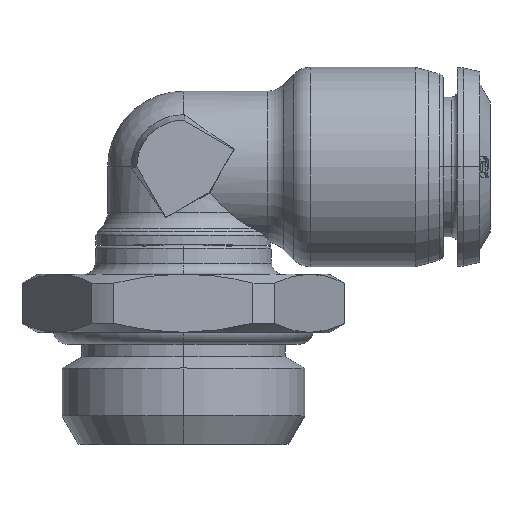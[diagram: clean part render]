
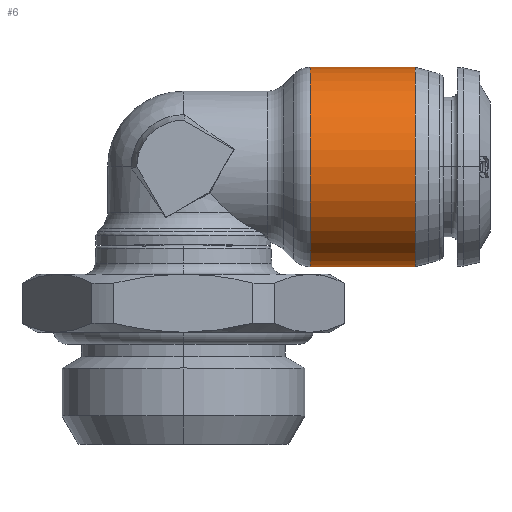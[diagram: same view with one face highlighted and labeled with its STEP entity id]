
A CAD part, top view. The second image highlights one B-rep face of the part: STEP entity #6.
In plain terms, the highlighted cylindrical face has radius 8.55 mm (diameter 17.1 mm), a partial arc.
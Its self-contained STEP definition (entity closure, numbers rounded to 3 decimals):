
#6 = ADVANCED_FACE ( 'NONE', ( #11668 ), #11676, .T. ) ;
#510 = AXIS2_PLACEMENT_3D ( 'NONE', #2738, #2737, #2729 ) ;
#744 = EDGE_CURVE ( 'NONE', #10720, #10719, #917, .T. ) ;
#770 = EDGE_CURVE ( 'NONE', #10699, #10702, #938, .T. ) ;
#771 = EDGE_CURVE ( 'NONE', #10702, #10719, #936, .T. ) ;
#772 = EDGE_CURVE ( 'NONE', #10699, #10720, #940, .T. ) ;
#917 = CIRCLE ( 'NONE', #7908, 8.55 ) ;
#936 = LINE ( 'NONE', #10300, #941 ) ;
#938 = CIRCLE ( 'NONE', #7920, 8.55 ) ;
#940 = LINE ( 'NONE', #10304, #943 ) ;
#941 = VECTOR ( 'NONE', #10295, 1000. ) ;
#943 = VECTOR ( 'NONE', #10306, 1000. ) ;
#1326 = CARTESIAN_POINT ( 'NONE',  ( 10.878, 8.55, 0. ) ) ;
#1329 = CARTESIAN_POINT ( 'NONE',  ( 10.878, -8.55, 0. ) ) ;
#1346 = CARTESIAN_POINT ( 'NONE',  ( 19.88, -8.55, 0. ) ) ;
#1347 = CARTESIAN_POINT ( 'NONE',  ( 19.88, 8.55, 0. ) ) ;
#2729 = DIRECTION ( 'NONE',  ( 0., 1., 0. ) ) ;
#2737 = DIRECTION ( 'NONE',  ( 1., 0., 0. ) ) ;
#2738 = CARTESIAN_POINT ( 'NONE',  ( 21., 0., 0. ) ) ;
#4669 = EDGE_LOOP ( 'NONE', ( #9084, #9085, #9086, #9087 ) ) ;
#7908 = AXIS2_PLACEMENT_3D ( 'NONE', #10207, #10208, #10209 ) ;
#7920 = AXIS2_PLACEMENT_3D ( 'NONE', #10301, #10302, #10303 ) ;
#9084 = ORIENTED_EDGE ( 'NONE', *, *, #770, .T. ) ;
#9085 = ORIENTED_EDGE ( 'NONE', *, *, #771, .T. ) ;
#9086 = ORIENTED_EDGE ( 'NONE', *, *, #744, .F. ) ;
#9087 = ORIENTED_EDGE ( 'NONE', *, *, #772, .F. ) ;
#10207 = CARTESIAN_POINT ( 'NONE',  ( 19.88, 0., 0. ) ) ;
#10208 = DIRECTION ( 'NONE',  ( 1., 0., 0. ) ) ;
#10209 = DIRECTION ( 'NONE',  ( 0., 1., 0. ) ) ;
#10295 = DIRECTION ( 'NONE',  ( 1., 0., 0. ) ) ;
#10300 = CARTESIAN_POINT ( 'NONE',  ( 21., -8.55, 0. ) ) ;
#10301 = CARTESIAN_POINT ( 'NONE',  ( 10.878, 0., 0. ) ) ;
#10302 = DIRECTION ( 'NONE',  ( 1., 0., 0. ) ) ;
#10303 = DIRECTION ( 'NONE',  ( 0., 1., 0. ) ) ;
#10304 = CARTESIAN_POINT ( 'NONE',  ( 21., 8.55, 0. ) ) ;
#10306 = DIRECTION ( 'NONE',  ( 1., 0., 0. ) ) ;
#10699 = VERTEX_POINT ( 'NONE', #1326 ) ;
#10702 = VERTEX_POINT ( 'NONE', #1329 ) ;
#10719 = VERTEX_POINT ( 'NONE', #1346 ) ;
#10720 = VERTEX_POINT ( 'NONE', #1347 ) ;
#11668 = FACE_OUTER_BOUND ( 'NONE', #4669, .T. ) ;
#11676 = CYLINDRICAL_SURFACE ( 'NONE', #510, 8.55 ) ;
